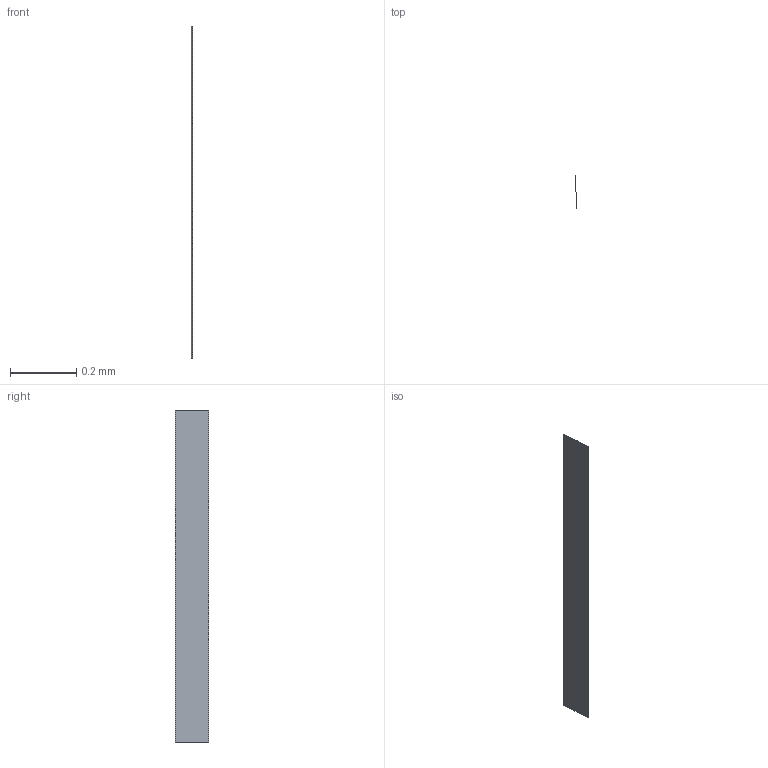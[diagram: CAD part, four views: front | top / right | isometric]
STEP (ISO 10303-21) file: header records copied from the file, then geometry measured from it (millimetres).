
FILE_DESCRIPTION(('BRL-CAD AP203 periodic parameter-zero split fixture'),'2;1');
FILE_NAME('ap203_periodic_zero_split.stp','2026-07-20T00:00:00',('BRL-CAD'),('BRL-CAD'),'','','');
FILE_SCHEMA(('CONFIG_CONTROL_DESIGN'));
Length unit declared in the file: millimetre
Products named in the file (1): periodic_zero_split
Bounding box: 0.01 x 0.1 x 1 mm (x, y, z)
Surface area: 0.1 mm2 (no closed solid volume)
Topology: 0 solids, 1 shells, 1 faces, 4 edges, 4 vertices
Faces by surface type: cylinder 1
Entity records: 54 total; most frequent: CARTESIAN_POINT 7, DIRECTION 5, VERTEX_POINT 4, EDGE_CURVE 4, ORIENTED_EDGE 4, VECTOR 3, AXIS2_PLACEMENT_3D 3, LINE 3
